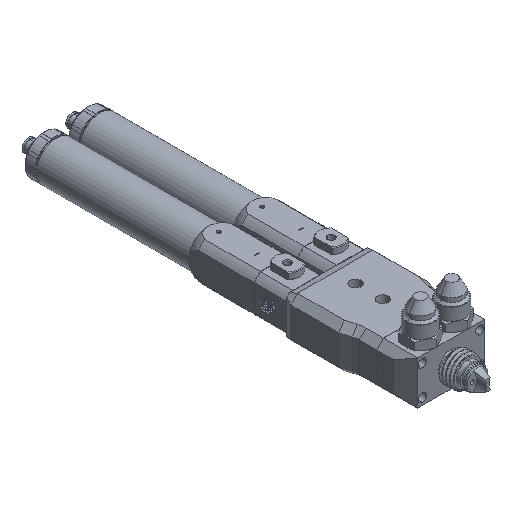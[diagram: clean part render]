
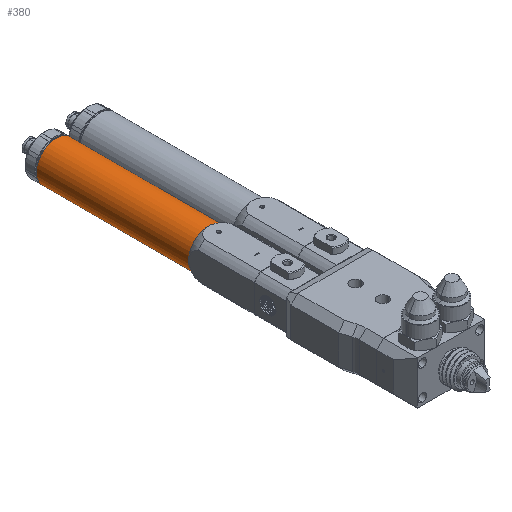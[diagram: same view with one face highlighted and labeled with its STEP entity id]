
A CAD part, isometric view. The second image highlights one B-rep face of the part: STEP entity #380.
In plain terms, the highlighted cylindrical face has radius 14.5 mm (diameter 29 mm), a full revolution.
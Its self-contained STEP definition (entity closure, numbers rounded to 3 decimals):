
#380 = ADVANCED_FACE ( 'NONE', ( #37299, #44350 ), #64337, .T. ) ;
#789 = CARTESIAN_POINT ( 'NONE',  ( -24.88, 35.604, 987.103 ) ) ;
#968 = CARTESIAN_POINT ( 'NONE',  ( -10.38, 147.404, 972.603 ) ) ;
#1161 = EDGE_CURVE ( 'NONE', #53082, #65739, #18485, .T. ) ;
#3620 = ORIENTED_EDGE ( 'NONE', *, *, #25415, .T. ) ;
#6678 = CIRCLE ( 'NONE', #54294, 14.5 ) ;
#7678 = DIRECTION ( 'NONE',  ( 0., 0., -1. ) ) ;
#8390 = CARTESIAN_POINT ( 'NONE',  ( -10.38, 35.604, 972.603 ) ) ;
#8939 = ORIENTED_EDGE ( 'NONE', *, *, #12078, .T. ) ;
#10582 = VERTEX_POINT ( 'NONE', #27693 ) ;
#11824 = VERTEX_POINT ( 'NONE', #50851 ) ;
#12078 = EDGE_CURVE ( 'NONE', #49624, #10582, #30959, .T. ) ;
#12080 = AXIS2_PLACEMENT_3D ( 'NONE', #26181, #15345, #36354 ) ;
#12195 = DIRECTION ( 'NONE',  ( 0., 1., 0. ) ) ;
#15345 = DIRECTION ( 'NONE',  ( 0., -1., 0. ) ) ;
#15366 = CIRCLE ( 'NONE', #33726, 14.5 ) ;
#18485 = CIRCLE ( 'NONE', #33594, 14.5 ) ;
#20700 = CIRCLE ( 'NONE', #40185, 14.5 ) ;
#21677 = DIRECTION ( 'NONE',  ( 0., 0., -1. ) ) ;
#23518 = ORIENTED_EDGE ( 'NONE', *, *, #1161, .T. ) ;
#24549 = ORIENTED_EDGE ( 'NONE', *, *, #64898, .T. ) ;
#25415 = EDGE_CURVE ( 'NONE', #10582, #53082, #20700, .T. ) ;
#26181 = CARTESIAN_POINT ( 'NONE',  ( -10.38, 147.404, 987.103 ) ) ;
#27669 = DIRECTION ( 'NONE',  ( 0., 1., 0. ) ) ;
#27693 = CARTESIAN_POINT ( 'NONE',  ( -10.38, 35.604, 1001.603 ) ) ;
#28114 = CARTESIAN_POINT ( 'NONE',  ( -10.38, 35.604, 987.103 ) ) ;
#28525 = EDGE_LOOP ( 'NONE', ( #23518, #31859, #8939, #3620 ) ) ;
#30959 = CIRCLE ( 'NONE', #33121, 14.5 ) ;
#31859 = ORIENTED_EDGE ( 'NONE', *, *, #64816, .T. ) ;
#33121 = AXIS2_PLACEMENT_3D ( 'NONE', #28114, #12195, #64676 ) ;
#33594 = AXIS2_PLACEMENT_3D ( 'NONE', #64906, #59833, #7678 ) ;
#33726 = AXIS2_PLACEMENT_3D ( 'NONE', #47422, #36917, #21677 ) ;
#36354 = DIRECTION ( 'NONE',  ( 0., 0., -1. ) ) ;
#36917 = DIRECTION ( 'NONE',  ( 0., -1., 0. ) ) ;
#37299 = FACE_OUTER_BOUND ( 'NONE', #28525, .T. ) ;
#38644 = DIRECTION ( 'NONE',  ( 0., 1., 0. ) ) ;
#40185 = AXIS2_PLACEMENT_3D ( 'NONE', #43727, #38644, #52861 ) ;
#40984 = EDGE_LOOP ( 'NONE', ( #24549, #64444 ) ) ;
#43346 = DIRECTION ( 'NONE',  ( 0., -1., 0. ) ) ;
#43727 = CARTESIAN_POINT ( 'NONE',  ( -10.38, 35.604, 987.103 ) ) ;
#43921 = DIRECTION ( 'NONE',  ( 0., 0., -1. ) ) ;
#44350 = FACE_OUTER_BOUND ( 'NONE', #40984, .T. ) ;
#47422 = CARTESIAN_POINT ( 'NONE',  ( -10.38, 147.404, 987.103 ) ) ;
#49334 = CARTESIAN_POINT ( 'NONE',  ( -10.38, 35.604, 987.103 ) ) ;
#49624 = VERTEX_POINT ( 'NONE', #789 ) ;
#50851 = CARTESIAN_POINT ( 'NONE',  ( -10.38, 147.404, 1001.603 ) ) ;
#52861 = DIRECTION ( 'NONE',  ( 0., 0., -1. ) ) ;
#53082 = VERTEX_POINT ( 'NONE', #54965 ) ;
#53677 = AXIS2_PLACEMENT_3D ( 'NONE', #63978, #43346, #64660 ) ;
#54128 = EDGE_CURVE ( 'NONE', #59143, #11824, #15366, .T. ) ;
#54294 = AXIS2_PLACEMENT_3D ( 'NONE', #49334, #27669, #43921 ) ;
#54965 = CARTESIAN_POINT ( 'NONE',  ( 4.12, 35.604, 987.103 ) ) ;
#59143 = VERTEX_POINT ( 'NONE', #968 ) ;
#59833 = DIRECTION ( 'NONE',  ( 0., 1., 0. ) ) ;
#63978 = CARTESIAN_POINT ( 'NONE',  ( -10.38, 31.667, 987.103 ) ) ;
#64337 = CYLINDRICAL_SURFACE ( 'NONE', #53677, 14.5 ) ;
#64444 = ORIENTED_EDGE ( 'NONE', *, *, #54128, .T. ) ;
#64660 = DIRECTION ( 'NONE',  ( 0., 0., -1. ) ) ;
#64676 = DIRECTION ( 'NONE',  ( 0., 0., -1. ) ) ;
#64816 = EDGE_CURVE ( 'NONE', #65739, #49624, #6678, .T. ) ;
#64898 = EDGE_CURVE ( 'NONE', #11824, #59143, #65136, .T. ) ;
#64906 = CARTESIAN_POINT ( 'NONE',  ( -10.38, 35.604, 987.103 ) ) ;
#65136 = CIRCLE ( 'NONE', #12080, 14.5 ) ;
#65739 = VERTEX_POINT ( 'NONE', #8390 ) ;
